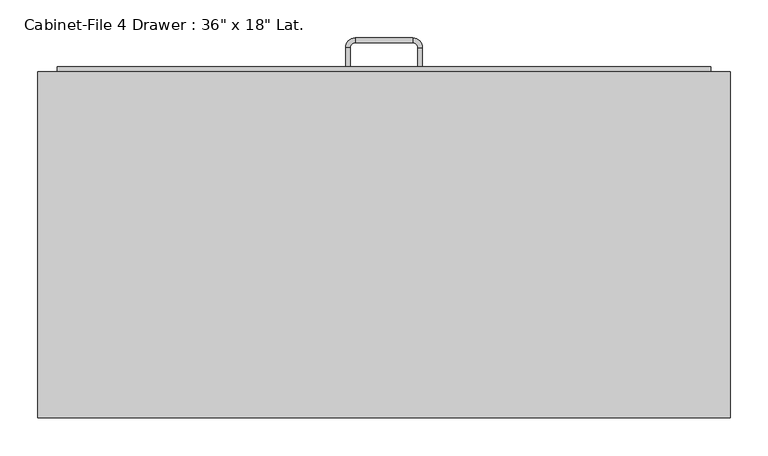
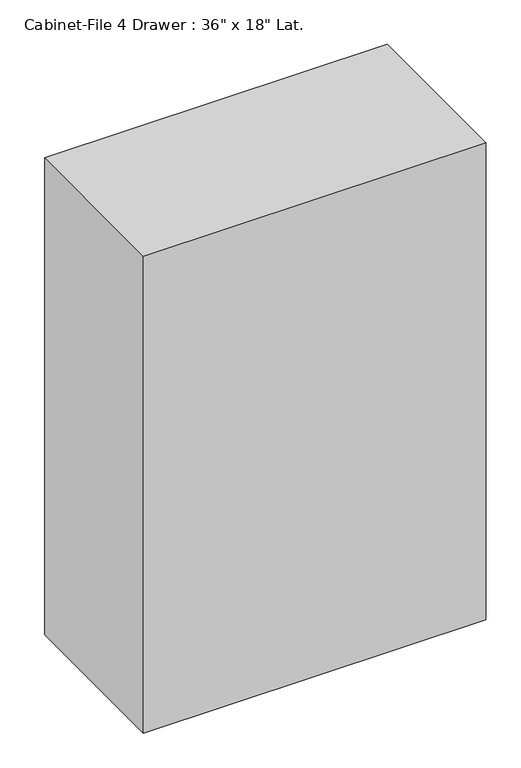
"""IFC4 building model written with IfcOpenShell, lengths in millimetres: furniture geometry."""

from ifc_helpers import new_model, si_unit, frame, origin, origin_with_axes, place, context, project, spatial, polyline, circle_curve, outline, extrude, source, transform, mapped, element, save
from ifc_brep_helpers import plane_surface, cylinder_surface, revolved_surface, advanced_brep


def furniture_d92d6fc3(model_context):
    return source(origin(), model_context, "Body", "SolidModel", [
        extrude(outline(polyline([(329.303553, -86.4656999), (-585.096447, -86.4656999), (-585.096447, 370.7343001), (329.303553, 370.7343001), (329.303553, -86.4656999)])), origin_with_axes(), (0.0, 0.0, 1.0), 1346.2),
        extrude(outline(polyline([(303.903553, 377.0843001), (303.903553, 370.7343001), (-559.696447, 370.7343001), (-559.696447, 377.0843001), (303.903553, 377.0843001)])), frame((0.0, 0.0, 1016.0), z_axis=(0.0, 0.0, 1.0), x_axis=(1.0, 0.0, 0.0)), (0.0, 0.0, 1.0), 304.8),
        extrude(outline(polyline([(303.903553, 377.0843001), (303.903553, 370.7343001), (-559.696447, 370.7343001), (-559.696447, 377.0843001), (303.903553, 377.0843001)])), frame((0.0, 0.0, 711.2), z_axis=(0.0, 0.0, 1.0), x_axis=(1.0, 0.0, 0.0)), (0.0, 0.0, 1.0), 279.4),
        extrude(outline(polyline([(303.903553, 377.0843001), (303.903553, 370.7343001), (-559.696447, 370.7343001), (-559.696447, 377.0843001), (303.903553, 377.0843001)])), frame((0.0, 0.0, 406.4), z_axis=(0.0, 0.0, 1.0), x_axis=(1.0, 0.0, 0.0)), (0.0, 0.0, 1.0), 279.4),
        extrude(outline(polyline([(303.903553, 377.0843001), (303.903553, 370.7343001), (-559.696447, 370.7343001), (-559.696447, 377.0843001), (303.903553, 377.0843001)])), frame((0.0, 0.0, 101.6), z_axis=(0.0, 0.0, 1.0), x_axis=(1.0, 0.0, 0.0)), (0.0, 0.0, 1.0), 279.4),
        advanced_brep(
        [(-172.346447, 377.0843001, 177.8), (-172.346447, 377.0843001, 190.5), (-178.696447, 377.0843001, 190.5), (-178.696447, 377.0843001, 177.8), (-178.696447, 402.4843001, 177.8), (-172.346447, 402.4843001, 177.8), (-178.696447, 402.4843001, 190.5), (-172.346447, 402.4843001, 190.5), (-165.996447, 415.1843001, 177.8), (-165.996447, 408.8343001, 177.8), (-165.996447, 415.1843001, 190.5), (-165.996447, 408.8343001, 190.5), (-89.796447, 415.1843001, 177.8), (-89.796447, 408.8343001, 177.8), (-89.796447, 415.1843001, 190.5), (-89.796447, 408.8343001, 190.5), (-77.096447, 402.4843001, 177.8), (-83.446447, 402.4843001, 177.8), (-77.096447, 402.4843001, 190.5), (-83.446447, 402.4843001, 190.5), (-83.446447, 377.0843001, 177.8), (-77.096447, 377.0843001, 177.8), (-77.096447, 377.0843001, 190.5), (-83.446447, 377.0843001, 190.5)],
        [
            (0, 1),
            (1, 2),
            (2, 3),
            (3, 0),
            (3, 4),
            (4, 5),
            (5, 0),
            (2, 6),
            (6, 4),
            (1, 7),
            (7, 6),
            (5, 7),
            (8, 9),
            (9, 5, circle_curve(frame((-165.996447, 402.4843001, 177.8), z_axis=(0.0, 0.0, 1.0), x_axis=(-1.0, 0.0, 0.0)), 6.35)),
            (4, 8, circle_curve(frame((-165.996447, 402.4843001, 177.8), z_axis=(0.0, 0.0, -1.0), x_axis=(-1.0, 0.0, 0.0)), 12.7)),
            (10, 8),
            (6, 10, circle_curve(frame((-165.996447, 402.4843001, 190.5), z_axis=(0.0, 0.0, -1.0), x_axis=(-1.0, 0.0, 0.0)), 12.7)),
            (11, 10),
            (7, 11, circle_curve(frame((-165.996447, 402.4843001, 190.5), z_axis=(0.0, 0.0, -1.0), x_axis=(-1.0, 0.0, 0.0)), 6.35)),
            (9, 11),
            (8, 12),
            (12, 13),
            (13, 9),
            (10, 14),
            (14, 12),
            (11, 15),
            (15, 14),
            (13, 15),
            (16, 17),
            (17, 13, circle_curve(frame((-89.796447, 402.4843001, 177.8), z_axis=(0.0, 0.0, 1.0), x_axis=(0.0, 1.0, 0.0)), 6.35)),
            (12, 16, circle_curve(frame((-89.796447, 402.4843001, 177.8), z_axis=(0.0, 0.0, -1.0), x_axis=(0.0, 1.0, 0.0)), 12.7)),
            (18, 16),
            (14, 18, circle_curve(frame((-89.796447, 402.4843001, 190.5), z_axis=(0.0, 0.0, -1.0), x_axis=(0.0, 1.0, 0.0)), 12.7)),
            (19, 18),
            (15, 19, circle_curve(frame((-89.796447, 402.4843001, 190.5), z_axis=(0.0, 0.0, -1.0), x_axis=(0.0, 1.0, 0.0)), 6.35)),
            (17, 19),
            (20, 21),
            (21, 22),
            (22, 23),
            (23, 20),
            (16, 21),
            (20, 17),
            (18, 22),
            (19, 23),
        ],
        [
            plane_surface(frame((-1283.614694, 377.0843001, 0.0), z_axis=(0.0, -1.0, 0.0), x_axis=(0.0, 0.0, -1.0))),
            plane_surface(frame((-172.346447, 377.0843001, 177.8), z_axis=(0.0, 0.0, -1.0), x_axis=(0.0, 1.0, 0.0))),
            plane_surface(frame((-178.696447, 377.0843001, 177.8), z_axis=(-1.0, 0.0, 0.0), x_axis=(0.0, 1.0, 0.0))),
            plane_surface(frame((-178.696447, 377.0843001, 190.5), z_axis=(0.0, 0.0, 1.0), x_axis=(0.0, 1.0, 0.0))),
            plane_surface(frame((-172.346447, 377.0843001, 190.5), z_axis=(1.0, 0.0, 0.0), x_axis=(0.0, 1.0, 0.0))),
            plane_surface(frame((-165.996447, 402.4843001, 177.8), z_axis=(0.0, 0.0, -1.0), x_axis=(-1.0, 0.0, 0.0))),
            cylinder_surface(frame((-165.996447, 402.4843001, 0.0), z_axis=(0.0, 0.0, 1.0), x_axis=(-1.0, 0.0, 0.0)), 12.7),
            plane_surface(frame((-165.996447, 402.4843001, 190.5), z_axis=(0.0, 0.0, 1.0), x_axis=(-1.0, 0.0, 0.0))),
            revolved_surface(polyline([(-172.34644699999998, 402.4843001, 190.5), (-172.34644699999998, 402.4843001, 177.8)]), (-165.996447, 402.4843001, 0.0), (0.0, 0.0, 1.0)),
            plane_surface(frame((-165.996447, 408.8343001, 177.8), z_axis=(0.0, 0.0, -1.0), x_axis=(1.0, 0.0, 0.0))),
            plane_surface(frame((-165.996447, 415.1843001, 177.8), z_axis=(0.0, 1.0, 0.0), x_axis=(1.0, 0.0, 0.0))),
            plane_surface(frame((-165.996447, 415.1843001, 190.5), z_axis=(0.0, 0.0, 1.0), x_axis=(1.0, 0.0, 0.0))),
            plane_surface(frame((-165.996447, 408.8343001, 190.5), z_axis=(0.0, -1.0, 0.0), x_axis=(1.0, 0.0, 0.0))),
            plane_surface(frame((-89.796447, 402.4843001, 177.8), z_axis=(0.0, 0.0, -1.0), x_axis=(0.0, 1.0, 0.0))),
            cylinder_surface(frame((-89.796447, 402.4843001, 0.0), z_axis=(0.0, 0.0, 1.0), x_axis=(0.0, 1.0, 0.0)), 12.7),
            plane_surface(frame((-89.796447, 402.4843001, 190.5), z_axis=(0.0, 0.0, 1.0), x_axis=(0.0, 1.0, 0.0))),
            revolved_surface(polyline([(-89.796447, 408.8343001, 190.5), (-89.796447, 408.8343001, 177.8)]), (-89.796447, 402.4843001, 0.0), (0.0, 0.0, 1.0)),
            plane_surface(frame((-1182.014694, 377.0843001, 0.0), z_axis=(0.0, -1.0, 0.0), x_axis=(0.0, 0.0, 1.0))),
            plane_surface(frame((-83.446447, 402.4843001, 177.8), z_axis=(0.0, 0.0, -1.0), x_axis=(0.0, -1.0, 0.0))),
            plane_surface(frame((-77.096447, 402.4843001, 177.8), z_axis=(1.0, 0.0, 0.0), x_axis=(0.0, -1.0, 0.0))),
            plane_surface(frame((-77.096447, 402.4843001, 190.5), z_axis=(0.0, 0.0, 1.0), x_axis=(0.0, -1.0, 0.0))),
            plane_surface(frame((-83.446447, 402.4843001, 190.5), z_axis=(-1.0, 0.0, 0.0), x_axis=(0.0, -1.0, 0.0))),
        ],
        [
            (0, [[1, 2, 3, 4]]),
            (1, [[5, 6, 7, -4]]),
            (2, [[8, 9, -5, -3]]),
            (3, [[10, 11, -8, -2]]),
            (4, [[-7, 12, -10, -1]]),
            (5, [[13, 14, -6, 15]]),
            (6, [[16, -15, -9, 17]]),
            (7, [[18, -17, -11, 19]]),
            (8, [[20, -19, -12, -14]]),
            (9, [[21, 22, 23, -13]]),
            (10, [[24, 25, -21, -16]]),
            (11, [[26, 27, -24, -18]]),
            (12, [[-23, 28, -26, -20]]),
            (13, [[29, 30, -22, 31]]),
            (14, [[32, -31, -25, 33]]),
            (15, [[34, -33, -27, 35]]),
            (16, [[36, -35, -28, -30]]),
            (17, [[37, 38, 39, 40]]),
            (18, [[41, -37, 42, -29]]),
            (19, [[43, -38, -41, -32]]),
            (20, [[44, -39, -43, -34]]),
            (21, [[-42, -40, -44, -36]]),
        ],
    ),
        advanced_brep(
        [(-172.346447, 377.0843001, 482.6), (-172.346447, 377.0843001, 495.3), (-178.696447, 377.0843001, 495.3), (-178.696447, 377.0843001, 482.6), (-178.696447, 402.4843001, 482.6), (-172.346447, 402.4843001, 482.6), (-178.696447, 402.4843001, 495.3), (-172.346447, 402.4843001, 495.3), (-165.996447, 415.1843001, 482.6), (-165.996447, 408.8343001, 482.6), (-165.996447, 415.1843001, 495.3), (-165.996447, 408.8343001, 495.3), (-89.796447, 415.1843001, 482.6), (-89.796447, 408.8343001, 482.6), (-89.796447, 415.1843001, 495.3), (-89.796447, 408.8343001, 495.3), (-77.096447, 402.4843001, 482.6), (-83.446447, 402.4843001, 482.6), (-77.096447, 402.4843001, 495.3), (-83.446447, 402.4843001, 495.3), (-83.446447, 377.0843001, 482.6), (-77.096447, 377.0843001, 482.6), (-77.096447, 377.0843001, 495.3), (-83.446447, 377.0843001, 495.3)],
        [
            (0, 1),
            (1, 2),
            (2, 3),
            (3, 0),
            (3, 4),
            (4, 5),
            (5, 0),
            (2, 6),
            (6, 4),
            (1, 7),
            (7, 6),
            (5, 7),
            (8, 9),
            (9, 5, circle_curve(frame((-165.996447, 402.4843001, 482.6), z_axis=(0.0, 0.0, 1.0), x_axis=(-1.0, 0.0, 0.0)), 6.35)),
            (4, 8, circle_curve(frame((-165.996447, 402.4843001, 482.6), z_axis=(0.0, 0.0, -1.0), x_axis=(-1.0, 0.0, 0.0)), 12.7)),
            (10, 8),
            (6, 10, circle_curve(frame((-165.996447, 402.4843001, 495.3), z_axis=(0.0, 0.0, -1.0), x_axis=(-1.0, 0.0, 0.0)), 12.7)),
            (11, 10),
            (7, 11, circle_curve(frame((-165.996447, 402.4843001, 495.3), z_axis=(0.0, 0.0, -1.0), x_axis=(-1.0, 0.0, 0.0)), 6.35)),
            (9, 11),
            (8, 12),
            (12, 13),
            (13, 9),
            (10, 14),
            (14, 12),
            (11, 15),
            (15, 14),
            (13, 15),
            (16, 17),
            (17, 13, circle_curve(frame((-89.796447, 402.4843001, 482.6), z_axis=(0.0, 0.0, 1.0), x_axis=(0.0, 1.0, 0.0)), 6.35)),
            (12, 16, circle_curve(frame((-89.796447, 402.4843001, 482.6), z_axis=(0.0, 0.0, -1.0), x_axis=(0.0, 1.0, 0.0)), 12.7)),
            (18, 16),
            (14, 18, circle_curve(frame((-89.796447, 402.4843001, 495.3), z_axis=(0.0, 0.0, -1.0), x_axis=(0.0, 1.0, 0.0)), 12.7)),
            (19, 18),
            (15, 19, circle_curve(frame((-89.796447, 402.4843001, 495.3), z_axis=(0.0, 0.0, -1.0), x_axis=(0.0, 1.0, 0.0)), 6.35)),
            (17, 19),
            (20, 21),
            (21, 22),
            (22, 23),
            (23, 20),
            (16, 21),
            (20, 17),
            (18, 22),
            (19, 23),
        ],
        [
            plane_surface(frame((-1283.614694, 377.0843001, 0.0), z_axis=(0.0, -1.0, 0.0), x_axis=(0.0, 0.0, -1.0))),
            plane_surface(frame((-172.346447, 377.0843001, 482.6), z_axis=(0.0, 0.0, -1.0), x_axis=(0.0, 1.0, 0.0))),
            plane_surface(frame((-178.696447, 377.0843001, 482.6), z_axis=(-1.0, 0.0, 0.0), x_axis=(0.0, 1.0, 0.0))),
            plane_surface(frame((-178.696447, 377.0843001, 495.3), z_axis=(0.0, 0.0, 1.0), x_axis=(0.0, 1.0, 0.0))),
            plane_surface(frame((-172.346447, 377.0843001, 495.3), z_axis=(1.0, 0.0, 0.0), x_axis=(0.0, 1.0, 0.0))),
            plane_surface(frame((-165.996447, 402.4843001, 482.6), z_axis=(0.0, 0.0, -1.0), x_axis=(-1.0, 0.0, 0.0))),
            cylinder_surface(frame((-165.996447, 402.4843001, 0.0), z_axis=(0.0, 0.0, 1.0), x_axis=(-1.0, 0.0, 0.0)), 12.7),
            plane_surface(frame((-165.996447, 402.4843001, 495.3), z_axis=(0.0, 0.0, 1.0), x_axis=(-1.0, 0.0, 0.0))),
            revolved_surface(polyline([(-172.34644699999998, 402.4843001, 495.3), (-172.34644699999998, 402.4843001, 482.6)]), (-165.996447, 402.4843001, 0.0), (0.0, 0.0, 1.0)),
            plane_surface(frame((-165.996447, 408.8343001, 482.6), z_axis=(0.0, 0.0, -1.0), x_axis=(1.0, 0.0, 0.0))),
            plane_surface(frame((-165.996447, 415.1843001, 482.6), z_axis=(0.0, 1.0, 0.0), x_axis=(1.0, 0.0, 0.0))),
            plane_surface(frame((-165.996447, 415.1843001, 495.3), z_axis=(0.0, 0.0, 1.0), x_axis=(1.0, 0.0, 0.0))),
            plane_surface(frame((-165.996447, 408.8343001, 495.3), z_axis=(0.0, -1.0, 0.0), x_axis=(1.0, 0.0, 0.0))),
            plane_surface(frame((-89.796447, 402.4843001, 482.6), z_axis=(0.0, 0.0, -1.0), x_axis=(0.0, 1.0, 0.0))),
            cylinder_surface(frame((-89.796447, 402.4843001, 0.0), z_axis=(0.0, 0.0, 1.0), x_axis=(0.0, 1.0, 0.0)), 12.7),
            plane_surface(frame((-89.796447, 402.4843001, 495.3), z_axis=(0.0, 0.0, 1.0), x_axis=(0.0, 1.0, 0.0))),
            revolved_surface(polyline([(-89.796447, 408.8343001, 495.3), (-89.796447, 408.8343001, 482.6)]), (-89.796447, 402.4843001, 0.0), (0.0, 0.0, 1.0)),
            plane_surface(frame((-1182.014694, 377.0843001, 0.0), z_axis=(0.0, -1.0, 0.0), x_axis=(0.0, 0.0, 1.0))),
            plane_surface(frame((-83.446447, 402.4843001, 482.6), z_axis=(0.0, 0.0, -1.0), x_axis=(0.0, -1.0, 0.0))),
            plane_surface(frame((-77.096447, 402.4843001, 482.6), z_axis=(1.0, 0.0, 0.0), x_axis=(0.0, -1.0, 0.0))),
            plane_surface(frame((-77.096447, 402.4843001, 495.3), z_axis=(0.0, 0.0, 1.0), x_axis=(0.0, -1.0, 0.0))),
            plane_surface(frame((-83.446447, 402.4843001, 495.3), z_axis=(-1.0, 0.0, 0.0), x_axis=(0.0, -1.0, 0.0))),
        ],
        [
            (0, [[1, 2, 3, 4]]),
            (1, [[5, 6, 7, -4]]),
            (2, [[8, 9, -5, -3]]),
            (3, [[10, 11, -8, -2]]),
            (4, [[-7, 12, -10, -1]]),
            (5, [[13, 14, -6, 15]]),
            (6, [[16, -15, -9, 17]]),
            (7, [[18, -17, -11, 19]]),
            (8, [[20, -19, -12, -14]]),
            (9, [[21, 22, 23, -13]]),
            (10, [[24, 25, -21, -16]]),
            (11, [[26, 27, -24, -18]]),
            (12, [[-23, 28, -26, -20]]),
            (13, [[29, 30, -22, 31]]),
            (14, [[32, -31, -25, 33]]),
            (15, [[34, -33, -27, 35]]),
            (16, [[36, -35, -28, -30]]),
            (17, [[37, 38, 39, 40]]),
            (18, [[41, -37, 42, -29]]),
            (19, [[43, -38, -41, -32]]),
            (20, [[44, -39, -43, -34]]),
            (21, [[-42, -40, -44, -36]]),
        ],
    ),
        advanced_brep(
        [(-172.346447, 377.0843001, 787.4), (-172.346447, 377.0843001, 800.1), (-178.696447, 377.0843001, 800.1), (-178.696447, 377.0843001, 787.4), (-178.696447, 402.4843001, 787.4), (-172.346447, 402.4843001, 787.4), (-178.696447, 402.4843001, 800.1), (-172.346447, 402.4843001, 800.1), (-165.996447, 415.1843001, 787.4), (-165.996447, 408.8343001, 787.4), (-165.996447, 415.1843001, 800.1), (-165.996447, 408.8343001, 800.1), (-89.796447, 415.1843001, 787.4), (-89.796447, 408.8343001, 787.4), (-89.796447, 415.1843001, 800.1), (-89.796447, 408.8343001, 800.1), (-77.096447, 402.4843001, 787.4), (-83.446447, 402.4843001, 787.4), (-77.096447, 402.4843001, 800.1), (-83.446447, 402.4843001, 800.1), (-83.446447, 377.0843001, 787.4), (-77.096447, 377.0843001, 787.4), (-77.096447, 377.0843001, 800.1), (-83.446447, 377.0843001, 800.1)],
        [
            (0, 1),
            (1, 2),
            (2, 3),
            (3, 0),
            (3, 4),
            (4, 5),
            (5, 0),
            (2, 6),
            (6, 4),
            (1, 7),
            (7, 6),
            (5, 7),
            (8, 9),
            (9, 5, circle_curve(frame((-165.996447, 402.4843001, 787.4), z_axis=(0.0, 0.0, 1.0), x_axis=(-1.0, 0.0, 0.0)), 6.35)),
            (4, 8, circle_curve(frame((-165.996447, 402.4843001, 787.4), z_axis=(0.0, 0.0, -1.0), x_axis=(-1.0, 0.0, 0.0)), 12.7)),
            (10, 8),
            (6, 10, circle_curve(frame((-165.996447, 402.4843001, 800.1), z_axis=(0.0, 0.0, -1.0), x_axis=(-1.0, 0.0, 0.0)), 12.7)),
            (11, 10),
            (7, 11, circle_curve(frame((-165.996447, 402.4843001, 800.1), z_axis=(0.0, 0.0, -1.0), x_axis=(-1.0, 0.0, 0.0)), 6.35)),
            (9, 11),
            (8, 12),
            (12, 13),
            (13, 9),
            (10, 14),
            (14, 12),
            (11, 15),
            (15, 14),
            (13, 15),
            (16, 17),
            (17, 13, circle_curve(frame((-89.796447, 402.4843001, 787.4), z_axis=(0.0, 0.0, 1.0), x_axis=(0.0, 1.0, 0.0)), 6.35)),
            (12, 16, circle_curve(frame((-89.796447, 402.4843001, 787.4), z_axis=(0.0, 0.0, -1.0), x_axis=(0.0, 1.0, 0.0)), 12.7)),
            (18, 16),
            (14, 18, circle_curve(frame((-89.796447, 402.4843001, 800.1), z_axis=(0.0, 0.0, -1.0), x_axis=(0.0, 1.0, 0.0)), 12.7)),
            (19, 18),
            (15, 19, circle_curve(frame((-89.796447, 402.4843001, 800.1), z_axis=(0.0, 0.0, -1.0), x_axis=(0.0, 1.0, 0.0)), 6.35)),
            (17, 19),
            (20, 21),
            (21, 22),
            (22, 23),
            (23, 20),
            (16, 21),
            (20, 17),
            (18, 22),
            (19, 23),
        ],
        [
            plane_surface(frame((-1283.614694, 377.0843001, 0.0), z_axis=(0.0, -1.0, 0.0), x_axis=(0.0, 0.0, -1.0))),
            plane_surface(frame((-172.346447, 377.0843001, 787.4), z_axis=(0.0, 0.0, -1.0), x_axis=(0.0, 1.0, 0.0))),
            plane_surface(frame((-178.696447, 377.0843001, 787.4), z_axis=(-1.0, 0.0, 0.0), x_axis=(0.0, 1.0, 0.0))),
            plane_surface(frame((-178.696447, 377.0843001, 800.1), z_axis=(0.0, 0.0, 1.0), x_axis=(0.0, 1.0, 0.0))),
            plane_surface(frame((-172.346447, 377.0843001, 800.1), z_axis=(1.0, 0.0, 0.0), x_axis=(0.0, 1.0, 0.0))),
            plane_surface(frame((-165.996447, 402.4843001, 787.4), z_axis=(0.0, 0.0, -1.0), x_axis=(-1.0, 0.0, 0.0))),
            cylinder_surface(frame((-165.996447, 402.4843001, 0.0), z_axis=(0.0, 0.0, 1.0), x_axis=(-1.0, 0.0, 0.0)), 12.7),
            plane_surface(frame((-165.996447, 402.4843001, 800.1), z_axis=(0.0, 0.0, 1.0), x_axis=(-1.0, 0.0, 0.0))),
            revolved_surface(polyline([(-172.34644699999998, 402.4843001, 800.1), (-172.34644699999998, 402.4843001, 787.4)]), (-165.996447, 402.4843001, 0.0), (0.0, 0.0, 1.0)),
            plane_surface(frame((-165.996447, 408.8343001, 787.4), z_axis=(0.0, 0.0, -1.0), x_axis=(1.0, 0.0, 0.0))),
            plane_surface(frame((-165.996447, 415.1843001, 787.4), z_axis=(0.0, 1.0, 0.0), x_axis=(1.0, 0.0, 0.0))),
            plane_surface(frame((-165.996447, 415.1843001, 800.1), z_axis=(0.0, 0.0, 1.0), x_axis=(1.0, 0.0, 0.0))),
            plane_surface(frame((-165.996447, 408.8343001, 800.1), z_axis=(0.0, -1.0, 0.0), x_axis=(1.0, 0.0, 0.0))),
            plane_surface(frame((-89.796447, 402.4843001, 787.4), z_axis=(0.0, 0.0, -1.0), x_axis=(0.0, 1.0, 0.0))),
            cylinder_surface(frame((-89.796447, 402.4843001, 0.0), z_axis=(0.0, 0.0, 1.0), x_axis=(0.0, 1.0, 0.0)), 12.7),
            plane_surface(frame((-89.796447, 402.4843001, 800.1), z_axis=(0.0, 0.0, 1.0), x_axis=(0.0, 1.0, 0.0))),
            revolved_surface(polyline([(-89.796447, 408.8343001, 800.1), (-89.796447, 408.8343001, 787.4)]), (-89.796447, 402.4843001, 0.0), (0.0, 0.0, 1.0)),
            plane_surface(frame((-1182.014694, 377.0843001, 0.0), z_axis=(0.0, -1.0, 0.0), x_axis=(0.0, 0.0, 1.0))),
            plane_surface(frame((-83.446447, 402.4843001, 787.4), z_axis=(0.0, 0.0, -1.0), x_axis=(0.0, -1.0, 0.0))),
            plane_surface(frame((-77.096447, 402.4843001, 787.4), z_axis=(1.0, 0.0, 0.0), x_axis=(0.0, -1.0, 0.0))),
            plane_surface(frame((-77.096447, 402.4843001, 800.1), z_axis=(0.0, 0.0, 1.0), x_axis=(0.0, -1.0, 0.0))),
            plane_surface(frame((-83.446447, 402.4843001, 800.1), z_axis=(-1.0, 0.0, 0.0), x_axis=(0.0, -1.0, 0.0))),
        ],
        [
            (0, [[1, 2, 3, 4]]),
            (1, [[5, 6, 7, -4]]),
            (2, [[8, 9, -5, -3]]),
            (3, [[10, 11, -8, -2]]),
            (4, [[-7, 12, -10, -1]]),
            (5, [[13, 14, -6, 15]]),
            (6, [[16, -15, -9, 17]]),
            (7, [[18, -17, -11, 19]]),
            (8, [[20, -19, -12, -14]]),
            (9, [[21, 22, 23, -13]]),
            (10, [[24, 25, -21, -16]]),
            (11, [[26, 27, -24, -18]]),
            (12, [[-23, 28, -26, -20]]),
            (13, [[29, 30, -22, 31]]),
            (14, [[32, -31, -25, 33]]),
            (15, [[34, -33, -27, 35]]),
            (16, [[36, -35, -28, -30]]),
            (17, [[37, 38, 39, 40]]),
            (18, [[41, -37, 42, -29]]),
            (19, [[43, -38, -41, -32]]),
            (20, [[44, -39, -43, -34]]),
            (21, [[-42, -40, -44, -36]]),
        ],
    ),
        advanced_brep(
        [(-172.346447, 377.0843001, 1092.2), (-172.346447, 377.0843001, 1104.9), (-178.696447, 377.0843001, 1104.9), (-178.696447, 377.0843001, 1092.2), (-178.696447, 402.4843001, 1092.2), (-172.346447, 402.4843001, 1092.2), (-178.696447, 402.4843001, 1104.9), (-172.346447, 402.4843001, 1104.9), (-165.996447, 415.1843001, 1092.2), (-165.996447, 408.8343001, 1092.2), (-165.996447, 415.1843001, 1104.9), (-165.996447, 408.8343001, 1104.9), (-89.796447, 415.1843001, 1092.2), (-89.796447, 408.8343001, 1092.2), (-89.796447, 415.1843001, 1104.9), (-89.796447, 408.8343001, 1104.9), (-77.096447, 402.4843001, 1092.2), (-83.446447, 402.4843001, 1092.2), (-77.096447, 402.4843001, 1104.9), (-83.446447, 402.4843001, 1104.9), (-83.446447, 377.0843001, 1092.2), (-77.096447, 377.0843001, 1092.2), (-77.096447, 377.0843001, 1104.9), (-83.446447, 377.0843001, 1104.9)],
        [
            (0, 1),
            (1, 2),
            (2, 3),
            (3, 0),
            (3, 4),
            (4, 5),
            (5, 0),
            (2, 6),
            (6, 4),
            (1, 7),
            (7, 6),
            (5, 7),
            (8, 9),
            (9, 5, circle_curve(frame((-165.996447, 402.4843001, 1092.2), z_axis=(0.0, 0.0, 1.0), x_axis=(-1.0, 0.0, 0.0)), 6.35)),
            (4, 8, circle_curve(frame((-165.996447, 402.4843001, 1092.2), z_axis=(0.0, 0.0, -1.0), x_axis=(-1.0, 0.0, 0.0)), 12.7)),
            (10, 8),
            (6, 10, circle_curve(frame((-165.996447, 402.4843001, 1104.9), z_axis=(0.0, 0.0, -1.0), x_axis=(-1.0, 0.0, 0.0)), 12.7)),
            (11, 10),
            (7, 11, circle_curve(frame((-165.996447, 402.4843001, 1104.9), z_axis=(0.0, 0.0, -1.0), x_axis=(-1.0, 0.0, 0.0)), 6.35)),
            (9, 11),
            (8, 12),
            (12, 13),
            (13, 9),
            (10, 14),
            (14, 12),
            (11, 15),
            (15, 14),
            (13, 15),
            (16, 17),
            (17, 13, circle_curve(frame((-89.796447, 402.4843001, 1092.2), z_axis=(0.0, 0.0, 1.0), x_axis=(0.0, 1.0, 0.0)), 6.35)),
            (12, 16, circle_curve(frame((-89.796447, 402.4843001, 1092.2), z_axis=(0.0, 0.0, -1.0), x_axis=(0.0, 1.0, 0.0)), 12.7)),
            (18, 16),
            (14, 18, circle_curve(frame((-89.796447, 402.4843001, 1104.9), z_axis=(0.0, 0.0, -1.0), x_axis=(0.0, 1.0, 0.0)), 12.7)),
            (19, 18),
            (15, 19, circle_curve(frame((-89.796447, 402.4843001, 1104.9), z_axis=(0.0, 0.0, -1.0), x_axis=(0.0, 1.0, 0.0)), 6.35)),
            (17, 19),
            (20, 21),
            (21, 22),
            (22, 23),
            (23, 20),
            (16, 21),
            (20, 17),
            (18, 22),
            (19, 23),
        ],
        [
            plane_surface(frame((-1283.614694, 377.0843001, 0.0), z_axis=(0.0, -1.0, 0.0), x_axis=(0.0, 0.0, -1.0))),
            plane_surface(frame((-172.346447, 377.0843001, 1092.2), z_axis=(0.0, 0.0, -1.0), x_axis=(0.0, 1.0, 0.0))),
            plane_surface(frame((-178.696447, 377.0843001, 1092.2), z_axis=(-1.0, 0.0, 0.0), x_axis=(0.0, 1.0, 0.0))),
            plane_surface(frame((-178.696447, 377.0843001, 1104.9), z_axis=(0.0, 0.0, 1.0), x_axis=(0.0, 1.0, 0.0))),
            plane_surface(frame((-172.346447, 377.0843001, 1104.9), z_axis=(1.0, 0.0, 0.0), x_axis=(0.0, 1.0, 0.0))),
            plane_surface(frame((-165.996447, 402.4843001, 1092.2), z_axis=(0.0, 0.0, -1.0), x_axis=(-1.0, 0.0, 0.0))),
            cylinder_surface(frame((-165.996447, 402.4843001, 0.0), z_axis=(0.0, 0.0, 1.0), x_axis=(-1.0, 0.0, 0.0)), 12.7),
            plane_surface(frame((-165.996447, 402.4843001, 1104.9), z_axis=(0.0, 0.0, 1.0), x_axis=(-1.0, 0.0, 0.0))),
            revolved_surface(polyline([(-172.34644699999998, 402.4843001, 1104.9), (-172.34644699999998, 402.4843001, 1092.2)]), (-165.996447, 402.4843001, 0.0), (0.0, 0.0, 1.0)),
            plane_surface(frame((-165.996447, 408.8343001, 1092.2), z_axis=(0.0, 0.0, -1.0), x_axis=(1.0, 0.0, 0.0))),
            plane_surface(frame((-165.996447, 415.1843001, 1092.2), z_axis=(0.0, 1.0, 0.0), x_axis=(1.0, 0.0, 0.0))),
            plane_surface(frame((-165.996447, 415.1843001, 1104.9), z_axis=(0.0, 0.0, 1.0), x_axis=(1.0, 0.0, 0.0))),
            plane_surface(frame((-165.996447, 408.8343001, 1104.9), z_axis=(0.0, -1.0, 0.0), x_axis=(1.0, 0.0, 0.0))),
            plane_surface(frame((-89.796447, 402.4843001, 1092.2), z_axis=(0.0, 0.0, -1.0), x_axis=(0.0, 1.0, 0.0))),
            cylinder_surface(frame((-89.796447, 402.4843001, 0.0), z_axis=(0.0, 0.0, 1.0), x_axis=(0.0, 1.0, 0.0)), 12.7),
            plane_surface(frame((-89.796447, 402.4843001, 1104.9), z_axis=(0.0, 0.0, 1.0), x_axis=(0.0, 1.0, 0.0))),
            revolved_surface(polyline([(-89.796447, 408.8343001, 1104.9), (-89.796447, 408.8343001, 1092.2)]), (-89.796447, 402.4843001, 0.0), (0.0, 0.0, 1.0)),
            plane_surface(frame((-1182.014694, 377.0843001, 0.0), z_axis=(0.0, -1.0, 0.0), x_axis=(0.0, 0.0, 1.0))),
            plane_surface(frame((-83.446447, 402.4843001, 1092.2), z_axis=(0.0, 0.0, -1.0), x_axis=(0.0, -1.0, 0.0))),
            plane_surface(frame((-77.096447, 402.4843001, 1092.2), z_axis=(1.0, 0.0, 0.0), x_axis=(0.0, -1.0, 0.0))),
            plane_surface(frame((-77.096447, 402.4843001, 1104.9), z_axis=(0.0, 0.0, 1.0), x_axis=(0.0, -1.0, 0.0))),
            plane_surface(frame((-83.446447, 402.4843001, 1104.9), z_axis=(-1.0, 0.0, 0.0), x_axis=(0.0, -1.0, 0.0))),
        ],
        [
            (0, [[1, 2, 3, 4]]),
            (1, [[5, 6, 7, -4]]),
            (2, [[8, 9, -5, -3]]),
            (3, [[10, 11, -8, -2]]),
            (4, [[-7, 12, -10, -1]]),
            (5, [[13, 14, -6, 15]]),
            (6, [[16, -15, -9, 17]]),
            (7, [[18, -17, -11, 19]]),
            (8, [[20, -19, -12, -14]]),
            (9, [[21, 22, 23, -13]]),
            (10, [[24, 25, -21, -16]]),
            (11, [[26, 27, -24, -18]]),
            (12, [[-23, 28, -26, -20]]),
            (13, [[29, 30, -22, 31]]),
            (14, [[32, -31, -25, 33]]),
            (15, [[34, -33, -27, 35]]),
            (16, [[36, -35, -28, -30]]),
            (17, [[37, 38, 39, 40]]),
            (18, [[41, -37, 42, -29]]),
            (19, [[43, -38, -41, -32]]),
            (20, [[44, -39, -43, -34]]),
            (21, [[-42, -40, -44, -36]]),
        ],
    ),
    ])


if __name__ == "__main__":
    model = new_model("IFC4")
    model_context = context("Model", 3, world=origin())
    ifc_project = project(units=[si_unit("LENGTHUNIT", "METRE", prefix="MILLI")], contexts=[model_context])
    site = spatial("IfcSite", under=ifc_project)
    building = spatial("IfcBuilding", under=site)
    placement = place(None, origin())
    furniture_shape = furniture_d92d6fc3(model_context)
    element("IfcFurniture", 1, ObjectType="Cabinet-File 4 Drawer : 36\" x 18\" Lat.", at=placement, inside=building, context=model_context, shape_type="MappedRepresentation", body=[
        mapped(furniture_shape, transform((0.0, 0.0, 0.0), x_axis=(1.0, 0.0, 0.0), y_axis=(0.0, 1.0, 0.0), z_axis=(0.0, 0.0, 1.0))),
    ])
    save(model, "model.ifc")
